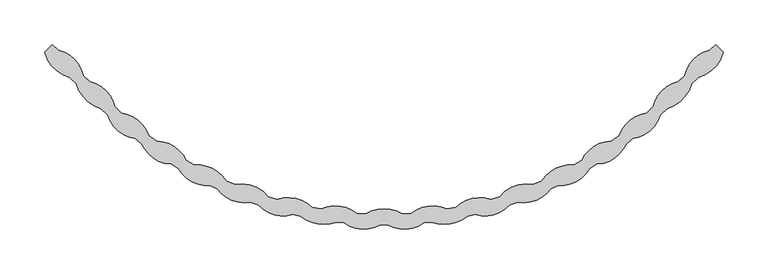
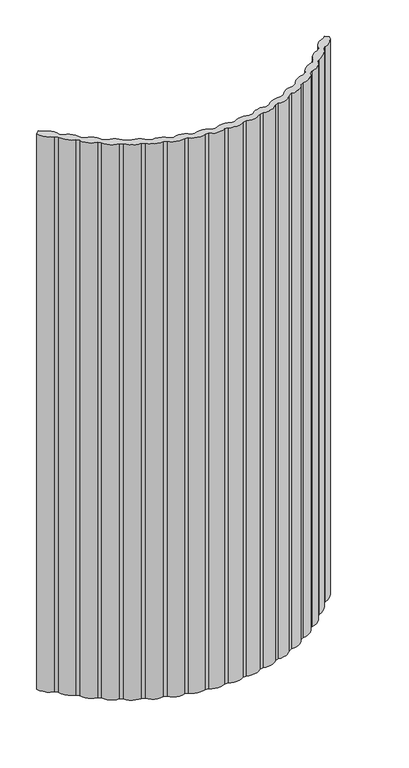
"""IFC4 building model written with IfcOpenShell, lengths in millimetres: furniture geometry, KFI Studios - Calm - Curved Screen : KFI Studios - Calm - Curved Screen."""

from ifc_helpers import new_model, si_unit, point, frame, frame_2d, origin, place, context, project, spatial, polyline, circle_curve, trimmed, segment, composite_curve, outline, extrude, source, transform, mapped, element, save


def furniture_baa1f8cb(model_context):
    return source(origin(), model_context, "Body", "SweptSolid", [
        extrude(outline(composite_curve([segment(trimmed(circle_curve(frame_2d((372.9274756, 56.6648274)), 36.5505282), [point((337.1527127, 64.1553182))], [point((365.4371055, 92.4396156))], False, "CARTESIAN"), True, "CONTINUOUS"), segment(polyline([(365.4371055, 92.4396156), (371.7967875, 98.7993794), (380.4609176, 90.1352206)]), True, "CONTINUOUS"), segment(trimmed(circle_curve(frame_2d((341.8118937, 100.4997953)), 40.0146405), [point((380.4609176, 90.1352206))], [point((352.1766541, 61.8508212))], False, "CARTESIAN"), True, "CONTINUOUS"), segment(polyline([(352.1766541, 61.8508212), (345.1057622, 54.7799528)]), True, "CONTINUOUS"), segment(trimmed(circle_curve(frame_2d((304.7314149, 66.8750812)), 42.1471239), [point((345.1057622, 54.7799528))], [point((316.7462278, 26.4767604))], False, "CARTESIAN"), True, "CONTINUOUS"), segment(polyline([(316.7462278, 26.4767604), (309.5639264, 19.5169631)]), True, "CONTINUOUS"), segment(trimmed(circle_curve(frame_2d((273.319161, 30.4630409)), 37.8615852), [point((309.5639264, 19.5169631))], [point((278.9712952, -6.9742802))], False, "CARTESIAN"), True, "CONTINUOUS"), segment(polyline([(278.9712952, -6.9742802), (271.8499276, -12.4852081)]), True, "CONTINUOUS"), segment(trimmed(circle_curve(frame_2d((237.0278459, 2.376538)), 37.8609148), [point((271.8499276, -12.4852081))], [point((238.5371498, -35.4542811))], False, "CARTESIAN"), True, "CONTINUOUS"), segment(polyline([(238.5371498, -35.4542811), (230.853807, -40.1504084)]), True, "CONTINUOUS"), segment(trimmed(circle_curve(frame_2d((197.8719868, -21.5558227)), 37.8623703), [point((230.853807, -40.1504084))], [point((195.2222539, -59.3253607))], False, "CARTESIAN"), True, "CONTINUOUS"), segment(polyline([(195.2222539, -59.3253607), (187.0706621, -63.1504451)]), True, "CONTINUOUS"), segment(trimmed(circle_curve(frame_2d((156.3274924, -41.0462767)), 37.8647163), [point((187.0706621, -63.1504451))], [point((149.5492856, -78.2993659))], False, "CARTESIAN"), True, "CONTINUOUS"), segment(polyline([(149.5492856, -78.2993659), (141.0266953, -81.2065603)]), True, "CONTINUOUS"), segment(trimmed(circle_curve(frame_2d((112.8957582, -55.8656002)), 37.8617734), [point((141.0266953, -81.2065603))], [point((102.0698265, -92.1466295))], False, "CARTESIAN"), True, "CONTINUOUS"), segment(polyline([(102.0698265, -92.1466295), (93.2797107, -94.1010796)]), True, "CONTINUOUS"), segment(trimmed(circle_curve(frame_2d((67.6889968, -63.3439051)), 40.0111038), [point((93.2797107, -94.1010796))], [point((53.3576653, -100.700315))], False, "CARTESIAN"), True, "CONTINUOUS"), segment(polyline([(53.3576653, -100.700315), (44.4061495, -101.6782349)]), True, "CONTINUOUS"), segment(trimmed(circle_curve(frame_2d((22.4806775, -70.8111235)), 37.8616547), [point((44.4061495, -101.6782349))], [point((3.9926885, -103.8519945))], False, "CARTESIAN"), True, "CONTINUOUS"), segment(polyline([(3.9926885, -103.8519945), (-4.0211186, -103.8604834)]), True, "CONTINUOUS"), segment(trimmed(circle_curve(frame_2d((-22.493795, -70.8110489)), 37.8616547), [point((-4.0211186, -103.8604834))], [point((-44.4193695, -101.6780876))], False, "CARTESIAN"), True, "CONTINUOUS"), segment(polyline([(-44.4193695, -101.6780876), (-53.370882, -100.700138)]), True, "CONTINUOUS"), segment(trimmed(circle_curve(frame_2d((-67.7020896, -63.3436805)), 40.0111038), [point((-53.370882, -100.700138))], [point((-93.2929056, -94.1007702))], False, "CARTESIAN"), True, "CONTINUOUS"), segment(polyline([(-93.2929056, -94.1007702), (-102.0830148, -92.1462909)]), True, "CONTINUOUS"), segment(trimmed(circle_curve(frame_2d((-112.9088262, -55.8652257)), 37.8617734), [point((-102.0830148, -92.1462909))], [point((-141.0398474, -81.2060925))], False, "CARTESIAN"), True, "CONTINUOUS"), segment(polyline([(-141.0398474, -81.2060925), (-149.562428, -78.2988698)]), True, "CONTINUOUS"), segment(trimmed(circle_curve(frame_2d((-156.3405113, -41.0457581)), 37.8647163), [point((-149.562428, -78.2988698))], [point((-187.0837542, -63.1498246))], False, "CARTESIAN"), True, "CONTINUOUS"), segment(polyline([(-187.0837542, -63.1498246), (-195.2353334, -59.3247131)]), True, "CONTINUOUS"), segment(trimmed(circle_curve(frame_2d((-197.884941, -21.5551663)), 37.8623703), [point((-195.2353334, -59.3247131))], [point((-230.8668229, -40.1496426))], False, "CARTESIAN"), True, "CONTINUOUS"), segment(polyline([(-230.8668229, -40.1496426), (-238.5501501, -35.4534898)]), True, "CONTINUOUS"), segment(trimmed(circle_curve(frame_2d((-237.0407207, 2.3773242)), 37.8609148), [point((-238.5501501, -35.4534898))], [point((-271.8628517, -12.4843063))], False, "CARTESIAN"), True, "CONTINUOUS"), segment(polyline([(-271.8628517, -12.4843063), (-278.9842011, -6.9733548)]), True, "CONTINUOUS"), segment(trimmed(circle_curve(frame_2d((-273.3319426, 30.4639475)), 37.8615852), [point((-278.9842011, -6.9733548))], [point((-309.5767443, 19.51799))], False, "CARTESIAN"), True, "CONTINUOUS"), segment(polyline([(-309.5767443, 19.51799), (-316.7590226, 26.4778111)]), True, "CONTINUOUS"), segment(trimmed(circle_curve(frame_2d((-304.7440758, 66.8760921)), 42.1471239), [point((-316.7590226, 26.4778111))], [point((-345.1184632, 54.7810976))], False, "CARTESIAN"), True, "CONTINUOUS"), segment(polyline([(-345.1184632, 54.7810976), (-352.1893316, 61.8519895)]), True, "CONTINUOUS"), segment(trimmed(circle_curve(frame_2d((-341.824443, 100.5009291)), 40.0146405), [point((-352.1893316, 61.8519895))], [point((-380.4705843, 90.1256114))], False, "CARTESIAN"), True, "CONTINUOUS"), segment(polyline([(-380.4705843, 90.1256114), (-371.7967875, 98.7993794), (-365.4371055, 92.4396156)]), True, "CONTINUOUS"), segment(trimmed(circle_curve(frame_2d((-372.9274756, 56.6648274)), 36.5505282), [point((-365.4371055, 92.4396156))], [point((-337.1527127, 64.1553182))], False, "CARTESIAN"), True, "CONTINUOUS"), segment(polyline([(-337.1527127, 64.1553182), (-330.0816327, 57.0840929)]), True, "CONTINUOUS"), segment(trimmed(circle_curve(frame_2d((-337.4314511, 21.4497808)), 36.3843926), [point((-330.0816327, 57.0840929))], [point((-301.8470734, 29.0376716))], False, "CARTESIAN"), True, "CONTINUOUS"), segment(polyline([(-301.8470734, 29.0376716), (-294.3702042, 22.085214)]), True, "CONTINUOUS"), segment(trimmed(circle_curve(frame_2d((-300.3615651, -16.5029535)), 39.0505195), [point((-294.3702042, 22.085214))], [point((-263.5644356, -3.4295327))], False, "CARTESIAN"), True, "CONTINUOUS"), segment(polyline([(-263.5644356, -3.4295327), (-255.1727966, -9.6012978)]), True, "CONTINUOUS"), segment(trimmed(circle_curve(frame_2d((-256.5646207, -48.4304048)), 38.8540438), [point((-255.1727966, -9.6012978))], [point((-221.6387062, -31.406386))], False, "CARTESIAN"), True, "CONTINUOUS"), segment(polyline([(-221.6387062, -31.406386), (-212.593328, -36.5727381)]), True, "CONTINUOUS"), segment(trimmed(circle_curve(frame_2d((-209.5123052, -75.3041337)), 38.8537476), [point((-212.593328, -36.5727381))], [point((-176.7749657, -54.378544))], False, "CARTESIAN"), True, "CONTINUOUS"), segment(polyline([(-176.7749657, -54.378544), (-167.1959537, -58.4704908)]), True, "CONTINUOUS"), segment(trimmed(circle_curve(frame_2d((-160.1402513, -97.8551419)), 40.0116693), [point((-167.1959537, -58.4704908))], [point((-129.5684448, -72.0423868))], False, "CARTESIAN"), True, "CONTINUOUS"), segment(polyline([(-129.5684448, -72.0423868), (-119.5823356, -75.0067543)]), True, "CONTINUOUS"), segment(trimmed(circle_curve(frame_2d((-107.7390173, -112.0121702)), 38.8544076), [point((-119.5823356, -75.0067543))], [point((-80.6445961, -84.1633402))], False, "CARTESIAN"), True, "CONTINUOUS"), segment(polyline([(-80.6445961, -84.1633402), (-70.3838352, -85.9601419)]), True, "CONTINUOUS"), segment(trimmed(circle_curve(frame_2d((-54.3653493, -121.358528)), 38.8540555), [point((-70.3838352, -85.9601419))], [point((-30.6516174, -90.580345))], False, "CARTESIAN"), True, "CONTINUOUS"), segment(polyline([(-30.6516174, -90.580345), (-20.2522999, -91.1860311)]), True, "CONTINUOUS"), segment(trimmed(circle_curve(frame_2d((0.0, -125.4904344)), 39.8365126), [point((-20.2522999, -91.1860311))], [point((20.2522999, -91.1860311))], False, "CARTESIAN"), True, "CONTINUOUS"), segment(polyline([(20.2522999, -91.1860311), (30.6516174, -90.580345)]), True, "CONTINUOUS"), segment(trimmed(circle_curve(frame_2d((54.3653493, -121.358528)), 38.8540555), [point((30.6516174, -90.580345))], [point((70.3838352, -85.9601419))], False, "CARTESIAN"), True, "CONTINUOUS"), segment(polyline([(70.3838352, -85.9601419), (80.6445961, -84.1633402)]), True, "CONTINUOUS"), segment(trimmed(circle_curve(frame_2d((107.7390173, -112.0121702)), 38.8544076), [point((80.6445961, -84.1633402))], [point((119.5823356, -75.0067543))], False, "CARTESIAN"), True, "CONTINUOUS"), segment(polyline([(119.5823356, -75.0067543), (129.5684448, -72.0423868)]), True, "CONTINUOUS"), segment(trimmed(circle_curve(frame_2d((160.1402513, -97.8551419)), 40.0116693), [point((129.5684448, -72.0423868))], [point((167.1959537, -58.4704908))], False, "CARTESIAN"), True, "CONTINUOUS"), segment(polyline([(167.1959537, -58.4704908), (176.7749657, -54.378544)]), True, "CONTINUOUS"), segment(trimmed(circle_curve(frame_2d((209.5123052, -75.3041337)), 38.8537476), [point((176.7749657, -54.378544))], [point((212.593328, -36.5727381))], False, "CARTESIAN"), True, "CONTINUOUS"), segment(polyline([(212.593328, -36.5727381), (221.6387062, -31.406386)]), True, "CONTINUOUS"), segment(trimmed(circle_curve(frame_2d((256.5646207, -48.4304048)), 38.8540438), [point((221.6387062, -31.406386))], [point((255.1727966, -9.6012978))], False, "CARTESIAN"), True, "CONTINUOUS"), segment(polyline([(255.1727966, -9.6012978), (263.5644356, -3.4295327)]), True, "CONTINUOUS"), segment(trimmed(circle_curve(frame_2d((300.3615651, -16.5029535)), 39.0505195), [point((263.5644356, -3.4295327))], [point((294.3702042, 22.085214))], False, "CARTESIAN"), True, "CONTINUOUS"), segment(polyline([(294.3702042, 22.085214), (301.8470734, 29.0376716)]), True, "CONTINUOUS"), segment(trimmed(circle_curve(frame_2d((337.4314511, 21.4497808)), 36.3843926), [point((301.8470734, 29.0376716))], [point((330.0816327, 57.0840929))], False, "CARTESIAN"), True, "CONTINUOUS"), segment(polyline([(330.0816327, 57.0840929), (337.1527127, 64.1553182)]), True, "CONTINUOUS")], self_intersect=False)), frame((0.0, 0.0, 5.2700272), z_axis=(0.0, 0.0, 1.0), x_axis=(1.0, 0.0, 0.0)), (0.0, 0.0, 1.0), 1524.0003876),
    ])


if __name__ == "__main__":
    model = new_model("IFC4")
    model_context = context("Model", 3, world=origin())
    ifc_project = project(units=[si_unit("LENGTHUNIT", "METRE", prefix="MILLI")], contexts=[model_context])
    site = spatial("IfcSite", under=ifc_project)
    building = spatial("IfcBuilding", under=site)
    placement = place(None, origin())
    furniture_shape = furniture_baa1f8cb(model_context)
    element("IfcFurniture", 1, ObjectType="KFI Studios - Calm - Curved Screen : KFI Studios - Calm - Curved Screen", at=placement, inside=building, context=model_context, shape_type="MappedRepresentation", body=[
        mapped(furniture_shape, transform((0.0, 0.0, 0.0), x_axis=(1.0, 0.0, 0.0), y_axis=(0.0, 1.0, 0.0), z_axis=(0.0, 0.0, 1.0))),
    ])
    save(model, "model.ifc")
